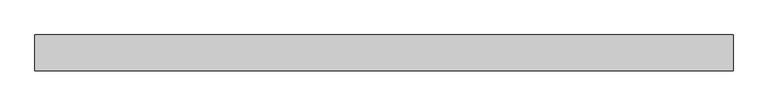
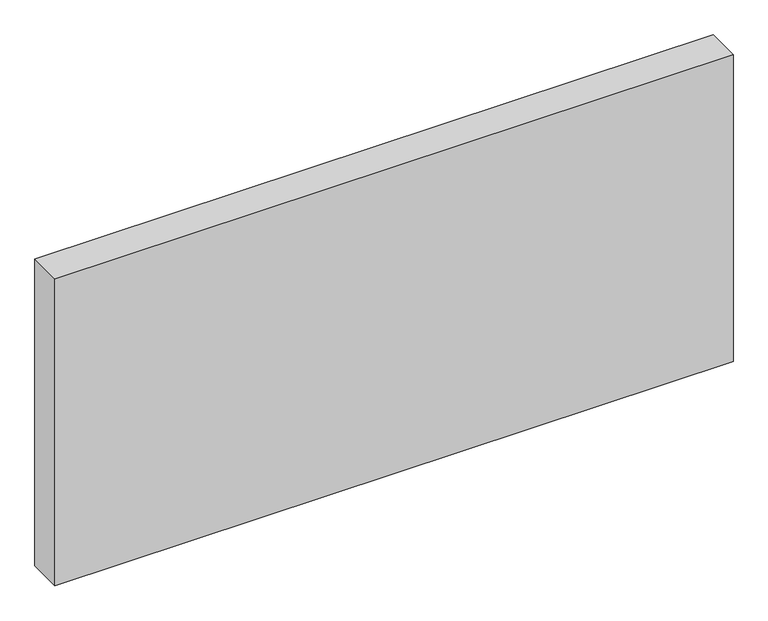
"""IFC4 building model written with IfcOpenShell, lengths in millimetres: plate geometry, Системная панель : Алюкобонд серый."""

from ifc_helpers import new_model, si_unit, origin, origin_with_axes, place, context, project, spatial, polyline, outline, extrude, source, transform, mapped, element, save


def plate_bbf09a78(model_context):
    return source(origin(), model_context, "Body", "SweptSolid", [
        extrude(outline(polyline([(585.0, -10.5), (-585.0, -10.5), (-585.0, 49.5), (585.0, 49.5), (585.0, -10.5)])), origin_with_axes(), (0.0, 0.0, 1.0), 560.0),
    ])


if __name__ == "__main__":
    model = new_model("IFC4")
    model_context = context("Model", 3, world=origin())
    ifc_project = project(units=[si_unit("LENGTHUNIT", "METRE", prefix="MILLI")], contexts=[model_context])
    site = spatial("IfcSite", under=ifc_project)
    building = spatial("IfcBuilding", under=site)
    placement = place(None, origin())
    plate_shape = plate_bbf09a78(model_context)
    element("IfcPlate", 1, ObjectType="Системная панель : Алюкобонд серый", at=placement, inside=building, context=model_context, shape_type="MappedRepresentation", body=[
        mapped(plate_shape, transform((0.0, 0.0, 0.0), x_axis=(1.0, 0.0, 0.0), y_axis=(0.0, 1.0, 0.0), z_axis=(0.0, 0.0, 1.0))),
    ])
    save(model, "model.ifc")
